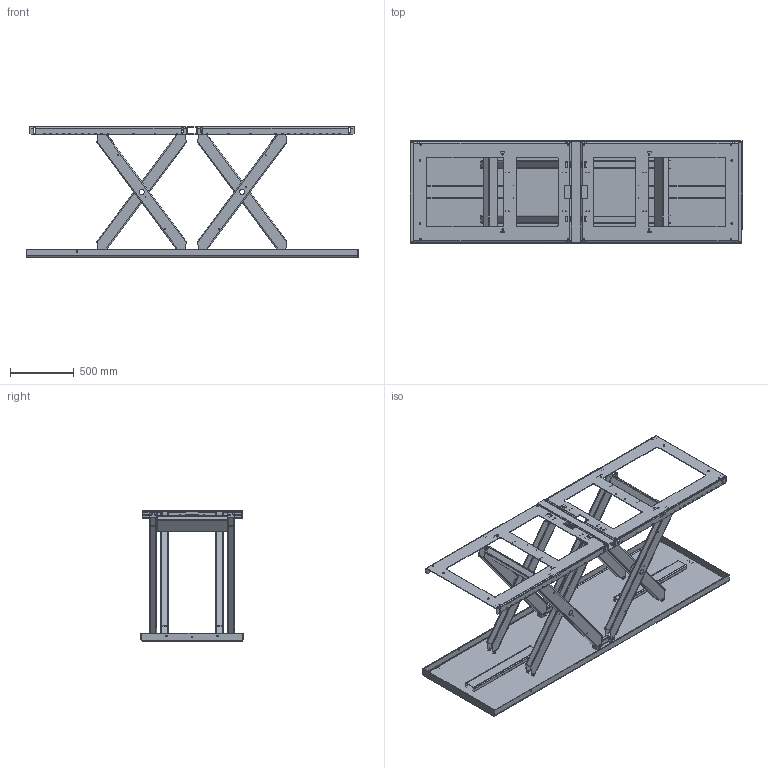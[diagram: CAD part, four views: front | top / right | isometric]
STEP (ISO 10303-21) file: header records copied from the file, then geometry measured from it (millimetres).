
FILE_DESCRIPTION(/* description */ (''),/* implementation_level */ '2;1');
FILE_NAME(/* name */ '\\EDMOFILE01\Users$\JOHSO\Desktop\33115_Topp.stp',/* time_stamp */ '2015-09-03T16:06:51+02:00',/* author */ ('JOHSO'),/* organization */ (''),/* preprocessor_version */ 'ST-DEVELOPER v15.6',/* originating_system */ 'Autodesk Inventor 2015',/* authorisation */ '');
FILE_SCHEMA (('AUTOMOTIVE_DESIGN { 1 0 10303 214 3 1 1 }'));
Length unit declared in the file: millimetre
Products named in the file (22): 35425-1; 45259; 44870; 35425; 35425-1_1; 35425_1; Copy of ISO 4019 - 80x60x4 - 785; 33113; 33104C; 33104C_MIR; 43866C-TL200; 33109C-TL2000; 33103C; 33108C; 34263-TL2000; 34263-TL2000_1; 33114-1; 41333-710; 42744; 82091-89; 33114; 33115
Assembly tree (37 placements, depth 4):
  33115
    33113
      35425
        35425-1
        45259  x2
        44870  x2
      35425_1
        35425-1_1
        45259  x2
        44870  x2
      Copy of ISO 4019 - 80x60x4 - 785
    34263-TL2000
      33109C-TL2000
        33104C
        33104C_MIR
        43866C-TL200
      33108C
        33103C  x2
    34263-TL2000_1
      33109C-TL2000
        33104C
        33104C_MIR
        43866C-TL200
      33108C
        33103C  x2
    33114
      33114-1
      45259  x4
      41333-710  x2
      42744  x2
      82091-89  x2
Bounding box: 2600 x 800.05 x 1020.84 mm (x, y, z)
Volume: 35194962.1 mm3; surface area: 14449951.1 mm2
Topology: 32 solids, 32 shells, 1711 faces, 4977 edges, 3326 vertices
Faces by surface type: plane 904, cylinder 755, bspline 52
Full cylindrical faces by diameter (mm): 5.55 x4, 6.6 x16, 7.4 x20, 10.5 x8, 12 x3, 12.5 x6, 13 x16, 14.2 x32, 19 x2, 28.1 x8, 40.2 x8, 60 x8
Entity records: 44719 total; most frequent: CARTESIAN_POINT 9642, ORIENTED_EDGE 7192, DIRECTION 7070, EDGE_CURVE 3596, VERTEX_POINT 2442, AXIS2_PLACEMENT_3D 2362, LINE 2346, VECTOR 2346
